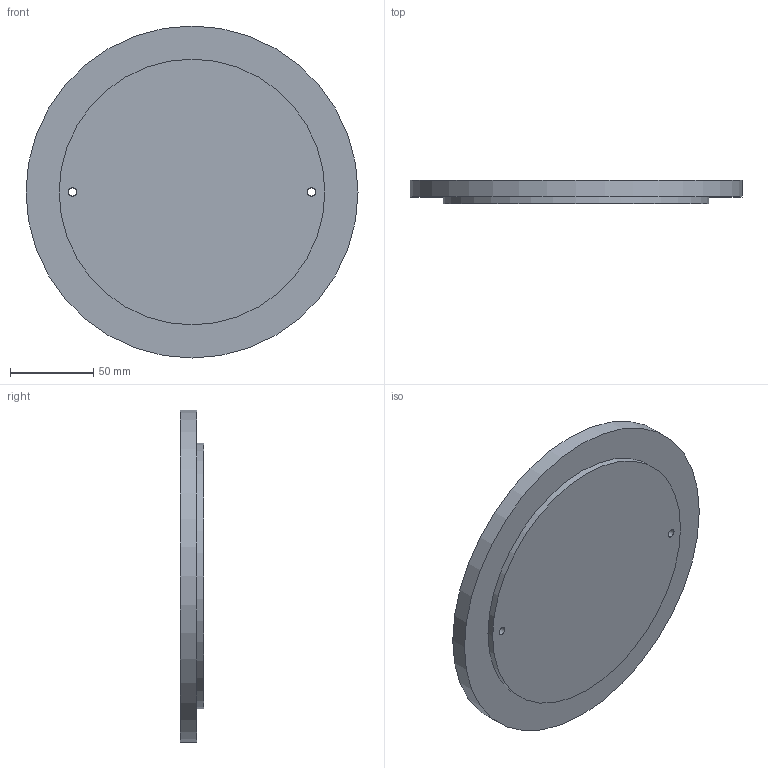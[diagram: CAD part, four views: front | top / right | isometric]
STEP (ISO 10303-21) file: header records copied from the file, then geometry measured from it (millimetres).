
FILE_DESCRIPTION(/* description */ ('STEP AP214'),/* implementation_level */ '2;1');
FILE_NAME(/* name */ 'F137720016014',/* time_stamp */ '2024-09-18T15:34:45+02:00',/* author */ ('License CC BY-ND 4.0'),/* organization */ ('CADENAS'),/* preprocessor_version */ 'ST-DEVELOPER v19.3',/* originating_system */ 'PARTsolutions',/* authorisation */ ' ');
FILE_SCHEMA (('AUTOMOTIVE_DESIGN {1 0 10303 214 3 1 1}'));
Length unit declared in the file: millimetre
Products named in the file (1): F137720016014
Bounding box: 200 x 14 x 200 mm (x, y, z)
Volume: 393850.5 mm3; surface area: 71543.5 mm2
Topology: 1 solids, 1 shells, 11 faces, 18 edges, 12 vertices
Faces by surface type: cylinder 6, plane 5
Full cylindrical faces by diameter (mm): 5 x2, 8 x2, 160 x1, 200 x1
Entity records: 272 total; most frequent: DIRECTION 48, CARTESIAN_POINT 36, ORIENTED_EDGE 24, EDGE_LOOP 24, FACE_BOUND 24, AXIS2_PLACEMENT_3D 24, EDGE_CURVE 12, VERTEX_POINT 12
